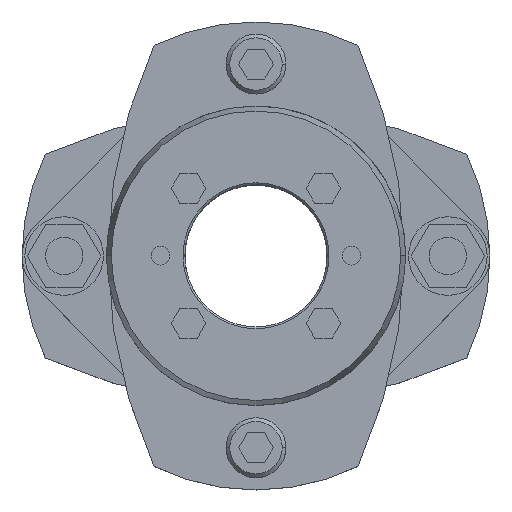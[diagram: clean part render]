
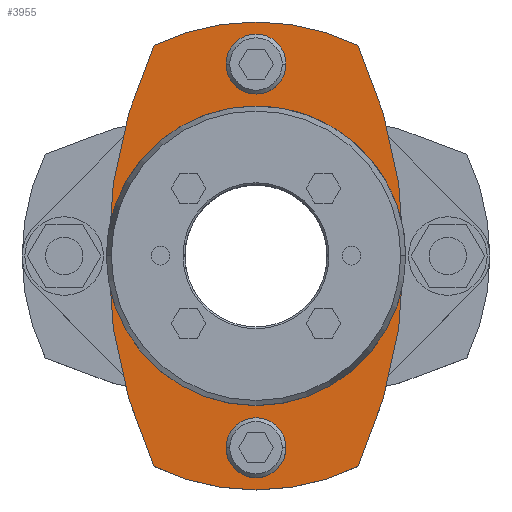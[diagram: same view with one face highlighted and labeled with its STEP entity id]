
A CAD part, top view. The second image highlights one B-rep face of the part: STEP entity #3955.
In plain terms, the highlighted planar face has unit normal (0, 0, 1).
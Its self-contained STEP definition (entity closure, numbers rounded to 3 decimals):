
#1387=CARTESIAN_POINT('',(-39.5,0.,19.0));
#1388=VERTEX_POINT('',#1387);
#1404=CARTESIAN_POINT('',(-27.217,-56.263,19.0));
#1405=VERTEX_POINT('',#1404);
#1412=CARTESIAN_POINT('',(95.5,0.,19.0));
#1413=DIRECTION('',(0.0,0.0,-1.0));
#1414=DIRECTION('',(-1.0,0.0,0.0));
#1415=AXIS2_PLACEMENT_3D('',#1412,#1413,#1414);
#1416=CIRCLE('',#1415,135.);
#1417=EDGE_CURVE('',#1405,#1388,#1416,.T.);
#1427=CARTESIAN_POINT('',(39.5,0.,19.0));
#1428=VERTEX_POINT('',#1427);
#1437=CARTESIAN_POINT('',(27.217,-56.263,19.0));
#1438=VERTEX_POINT('',#1437);
#1439=CARTESIAN_POINT('',(-95.5,0.,19.0));
#1440=DIRECTION('',(0.0,0.0,-1.0));
#1441=DIRECTION('',(-1.0,0.0,0.0));
#1442=AXIS2_PLACEMENT_3D('',#1439,#1440,#1441);
#1443=CIRCLE('',#1442,135.);
#1444=EDGE_CURVE('',#1428,#1438,#1443,.T.);
#1693=CARTESIAN_POINT('',(-30.5,0.,19.0));
#1694=VERTEX_POINT('',#1693);
#1744=CARTESIAN_POINT('',(30.5,0.,19.0));
#1745=VERTEX_POINT('',#1744);
#1752=CARTESIAN_POINT('',(0.,0.,19.0));
#1753=DIRECTION('',(0.0,0.0,-1.0));
#1754=DIRECTION('',(-1.0,0.0,0.0));
#1755=AXIS2_PLACEMENT_3D('',#1752,#1753,#1754);
#1756=CIRCLE('',#1755,30.5);
#1757=EDGE_CURVE('',#1694,#1745,#1756,.T.);
#1853=CARTESIAN_POINT('',(-8.,-51.25,19.0));
#1854=VERTEX_POINT('',#1853);
#1870=CARTESIAN_POINT('',(8.,-51.25,19.0));
#1871=VERTEX_POINT('',#1870);
#1878=CARTESIAN_POINT('',(0.,-51.25,19.0));
#1879=DIRECTION('',(0.0,0.0,-1.0));
#1880=DIRECTION('',(-1.0,0.0,0.0));
#1881=AXIS2_PLACEMENT_3D('',#1878,#1879,#1880);
#1882=CIRCLE('',#1881,8.0);
#1883=EDGE_CURVE('',#1854,#1871,#1882,.T.);
#1927=CARTESIAN_POINT('',(-8.,51.25,19.0));
#1928=VERTEX_POINT('',#1927);
#1944=CARTESIAN_POINT('',(8.,51.25,19.0));
#1945=VERTEX_POINT('',#1944);
#1952=CARTESIAN_POINT('',(0.,51.25,19.0));
#1953=DIRECTION('',(0.0,0.0,-1.0));
#1954=DIRECTION('',(-1.0,0.0,0.0));
#1955=AXIS2_PLACEMENT_3D('',#1952,#1953,#1954);
#1956=CIRCLE('',#1955,8.0);
#1957=EDGE_CURVE('',#1928,#1945,#1956,.T.);
#2496=CARTESIAN_POINT('',(0.,51.25,19.0));
#2497=DIRECTION('',(0.0,0.0,-1.0));
#2498=DIRECTION('',(-1.0,0.0,0.0));
#2499=AXIS2_PLACEMENT_3D('',#2496,#2497,#2498);
#2500=CIRCLE('',#2499,8.0);
#2501=EDGE_CURVE('',#1945,#1928,#2500,.T.);
#2556=CARTESIAN_POINT('',(0.,-51.25,19.0));
#2557=DIRECTION('',(0.0,0.0,-1.0));
#2558=DIRECTION('',(-1.0,0.0,0.0));
#2559=AXIS2_PLACEMENT_3D('',#2556,#2557,#2558);
#2560=CIRCLE('',#2559,8.0);
#2561=EDGE_CURVE('',#1871,#1854,#2560,.T.);
#3628=CARTESIAN_POINT('',(0.,0.,19.0));
#3629=DIRECTION('',(0.0,0.0,-1.0));
#3630=DIRECTION('',(-1.0,0.0,0.0));
#3631=AXIS2_PLACEMENT_3D('',#3628,#3629,#3630);
#3632=CIRCLE('',#3631,30.5);
#3633=EDGE_CURVE('',#1745,#1694,#3632,.T.);
#3849=CARTESIAN_POINT('',(-27.217,56.263,19.0));
#3850=VERTEX_POINT('',#3849);
#3851=CARTESIAN_POINT('',(27.217,56.263,19.0));
#3852=VERTEX_POINT('',#3851);
#3853=CARTESIAN_POINT('',(0.,0.0,19.0));
#3854=DIRECTION('',(0.0,0.0,-1.0));
#3855=DIRECTION('',(-1.0,0.0,0.0));
#3856=AXIS2_PLACEMENT_3D('',#3853,#3854,#3855);
#3857=CIRCLE('',#3856,62.5);
#3858=EDGE_CURVE('',#3850,#3852,#3857,.T.);
#3884=CARTESIAN_POINT('',(-95.5,0.,19.0));
#3885=DIRECTION('',(0.0,0.0,-1.0));
#3886=DIRECTION('',(-1.0,0.0,0.0));
#3887=AXIS2_PLACEMENT_3D('',#3884,#3885,#3886);
#3888=CIRCLE('',#3887,135.);
#3889=EDGE_CURVE('',#3852,#1428,#3888,.T.);
#3899=CARTESIAN_POINT('',(0.,0.,19.0));
#3900=DIRECTION('',(0.0,0.0,-1.0));
#3901=DIRECTION('',(-1.0,0.0,0.0));
#3902=AXIS2_PLACEMENT_3D('',#3899,#3900,#3901);
#3903=CIRCLE('',#3902,62.5);
#3904=EDGE_CURVE('',#1438,#1405,#3903,.T.);
#3918=CARTESIAN_POINT('',(95.5,0.,19.0));
#3919=DIRECTION('',(0.0,0.0,-1.0));
#3920=DIRECTION('',(-1.0,0.0,0.0));
#3921=AXIS2_PLACEMENT_3D('',#3918,#3919,#3920);
#3922=CIRCLE('',#3921,135.);
#3923=EDGE_CURVE('',#1388,#3850,#3922,.T.);
#3930=CARTESIAN_POINT('',(0.,0.,19.0));
#3931=DIRECTION('',(0.0,0.0,1.0));
#3932=DIRECTION('',(-1.0,0.0,0.0));
#3933=AXIS2_PLACEMENT_3D('',#3930,#3931,#3932);
#3934=PLANE('',#3933);
#3935=ORIENTED_EDGE('',*,*,#3858,.F.);
#3936=ORIENTED_EDGE('',*,*,#3923,.F.);
#3937=ORIENTED_EDGE('',*,*,#1417,.F.);
#3938=ORIENTED_EDGE('',*,*,#3904,.F.);
#3939=ORIENTED_EDGE('',*,*,#1444,.F.);
#3940=ORIENTED_EDGE('',*,*,#3889,.F.);
#3941=EDGE_LOOP('',(#3935,#3936,#3937,#3938,#3939,#3940));
#3942=FACE_OUTER_BOUND('',#3941,.T.);
#3943=ORIENTED_EDGE('',*,*,#1883,.T.);
#3944=ORIENTED_EDGE('',*,*,#2561,.T.);
#3945=EDGE_LOOP('',(#3943,#3944));
#3946=FACE_BOUND('',#3945,.T.);
#3947=ORIENTED_EDGE('',*,*,#1957,.T.);
#3948=ORIENTED_EDGE('',*,*,#2501,.T.);
#3949=EDGE_LOOP('',(#3947,#3948));
#3950=FACE_BOUND('',#3949,.T.);
#3951=ORIENTED_EDGE('',*,*,#1757,.T.);
#3952=ORIENTED_EDGE('',*,*,#3633,.T.);
#3953=EDGE_LOOP('',(#3951,#3952));
#3954=FACE_BOUND('',#3953,.T.);
#3955=ADVANCED_FACE('',(#3942,#3946,#3950,#3954),#3934,.T.);
